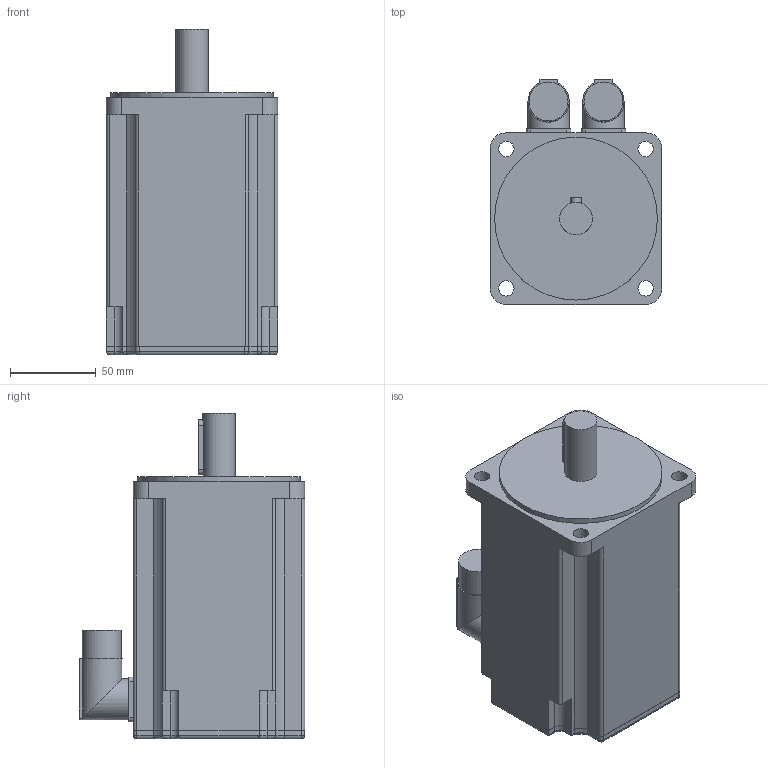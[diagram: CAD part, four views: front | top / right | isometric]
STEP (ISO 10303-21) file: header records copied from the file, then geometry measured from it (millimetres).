
FILE_DESCRIPTION(/* description */ (''),/* implementation_level */ '2;1');
FILE_NAME(/* name */ '\\Lafnas01\disegni\Archivi Lafert\3D\CAD 3D\MODELLI\Assiemi clienti\Serad\Modelli 3D Serad\B63Q\Resolver\Res Without Brake\B6304Qxx6A052033.ipt.stp',/* time_stamp */ '2015-09-07T10:51:21+02:00',/* author */ ('Pastrello Ylenia'),/* organization */ (''),/* preprocessor_version */ 'ST-DEVELOPER v15.6',/* originating_system */ 'Autodesk Inventor 2015',/* authorisation */ '');
FILE_SCHEMA (('AUTOMOTIVE_DESIGN { 1 0 10303 214 3 1 1 }'));
Length unit declared in the file: millimetre
Products named in the file (1): B6304Qxx6A052033
Bounding box: 100 x 131.5 x 190 mm (x, y, z)
Volume: 1416646.6 mm3; surface area: 89753.2 mm2
Topology: 1 solids, 1 shells, 162 faces, 420 edges, 270 vertices
Faces by surface type: plane 76, cylinder 74, torus 8, sphere 4
Full cylindrical faces by diameter (mm): 9 x4, 19 x1, 22.7 x2, 24 x2, 95 x1
Entity records: 5018 total; most frequent: CARTESIAN_POINT 973, DIRECTION 864, ORIENTED_EDGE 812, EDGE_CURVE 406, AXIS2_PLACEMENT_3D 305, VERTEX_POINT 266, LINE 254, VECTOR 254
